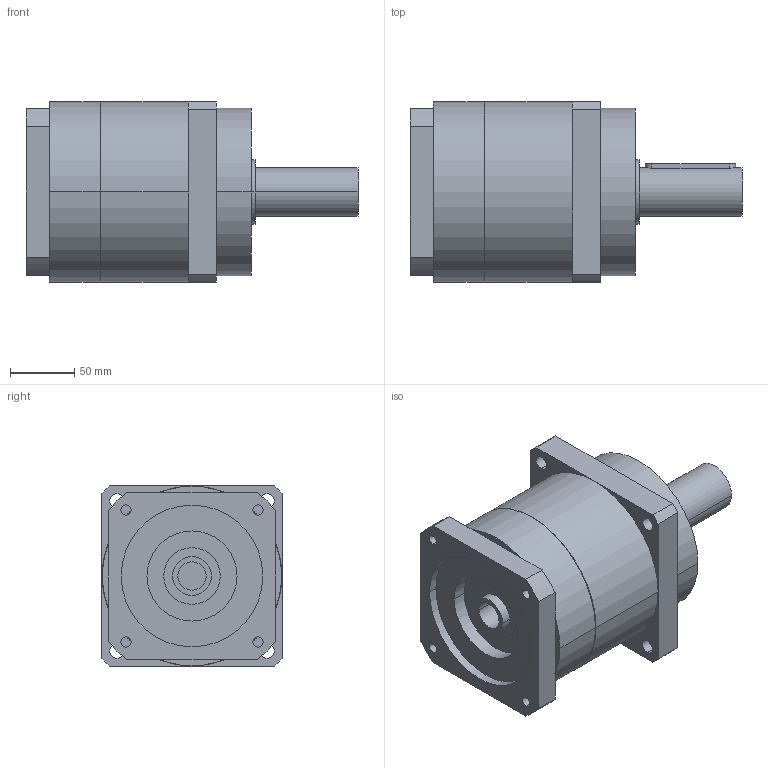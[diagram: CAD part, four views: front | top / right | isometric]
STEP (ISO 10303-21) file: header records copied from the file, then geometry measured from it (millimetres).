
FILE_DESCRIPTION(('CoCreate Modeling STEP Export'),'2;1');
FILE_NAME('GPR150_ig-3-4-5-7_38_B5_22_P08.stp','2014-08-26T15:29:16',(''),(''),'CoCreate Modeling STEP processor for AP214 (Solid Model)','CoCreate Modeling 16.00C 25-Feb-2009 (C) Parametric Technology GmbH','');
FILE_SCHEMA(('AUTOMOTIVE_DESIGN { 1 0 10303 214 1 1 1 1 }'));
Length unit declared in the file: millimetre
Products named in the file (2): GPR150_ig-3-4-5-7_38_B5_22_P08
Assembly tree (1 placements, depth 2):
  GPR150_ig-3-4-5-7_38_B5_22_P08
    GPR150_ig-3-4-5-7_38_B5_22_P08
Bounding box: 258 x 140 x 140 mm (x, y, z)
Volume: 2709829.6 mm3; surface area: 146314.7 mm2
Topology: 1 solids, 1 shells, 92 faces, 245 edges, 159 vertices
Faces by surface type: cylinder 48, plane 38, cone 6
Entity records: 2482 total; most frequent: ORIENTED_EDGE 486, CARTESIAN_POINT 449, DIRECTION 344, EDGE_CURVE 243, VERTEX_POINT 159, AXIS2_PLACEMENT_3D 126, EDGE_LOOP 114, VECTOR 92
